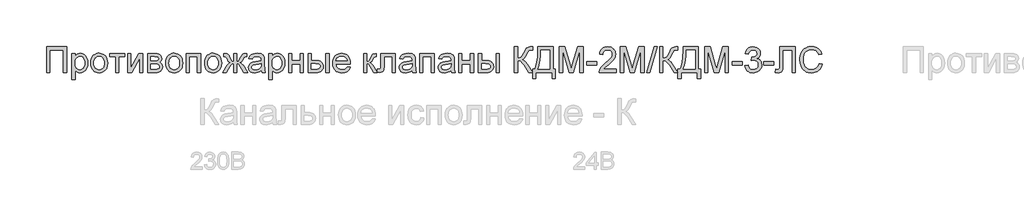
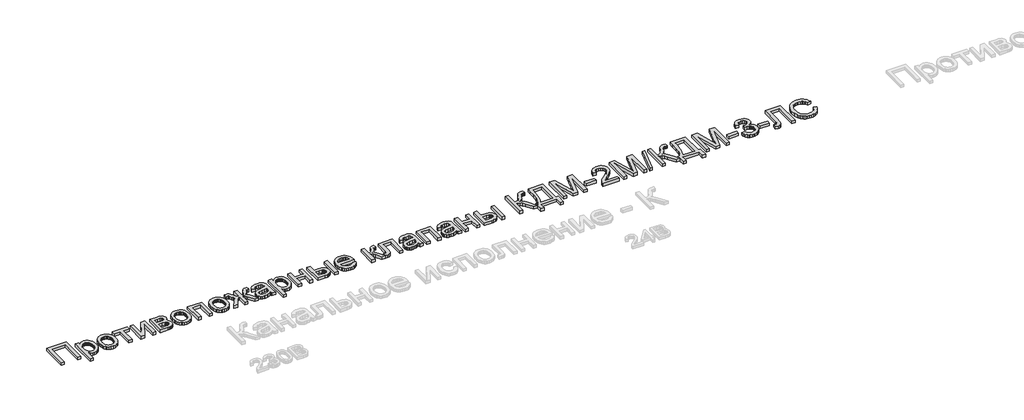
# One storey, part 8 of 23: 1 proxy.
"""IFC4 building model written with IfcOpenShell, lengths in millimetres."""

from ifc_helpers import new_model, si_unit, origin, origin_with_axes, place, context, project, spatial, polyline, outline, extrude, element, save

model = new_model("IFC4")

# Units and contexts
model_context = context("Model", 3, world=origin())
ifc_project = project(units=[si_unit("LENGTHUNIT", "METRE", prefix="MILLI")], contexts=[model_context])

# Site, building, storey
site = spatial("IfcSite", under=ifc_project)
building = spatial("IfcBuilding", under=site)
storey = spatial("IfcBuildingStorey", under=building, Name="Этаж 01", Elevation=0.0)

# Proxy
placement = place(None, origin())
element("IfcBuildingElementProxy", 1, Name="450 мм Arial", ObjectType="450 мм Arial", at=placement, inside=storey, context=model_context, shape_type="SweptSolid", body=[
    extrude(outline(polyline([(947.7209967, -11762.9519857), (1299.0148583, -11762.9519857), (1299.0148583, -12212.6081285), (1242.8078404, -12212.6081285), (1242.8078404, -11819.1590035), (1003.9280146, -11819.1590035), (1003.9280146, -12212.6081285), (947.7209967, -12212.6081285), (947.7209967, -11762.9519857)])), origin_with_axes(), (0.0, 0.0, 1.0), 50.0),
    extrude(outline(polyline([(1390.3512623, -12339.0739187), (1390.3512623, -11882.3918986), (1446.5582802, -11882.3918986), (1446.5582802, -11937.5011231), (1464.8914286, -11910.3170161), (1485.4201636, -11890.8997968), (1509.3520579, -11879.2494652), (1537.8946842, -11875.3660214), (1575.9057778, -11880.8000983), (1609.1414705, -11897.1023291), (1636.2020757, -11923.2846997), (1655.6879071, -11958.3591962), (1667.4617405, -11999.7734491), (1671.3863516, -12044.9750889), (1666.954011, -12093.0447138), (1653.6569895, -12136.0370446), (1631.9206818, -12171.7702171), (1602.1704829, -12198.062367), (1567.5213813, -12214.241096), (1531.0883656, -12219.6340057), (1505.2490554, -12216.0250102), (1482.1816733, -12205.1980236), (1462.435116, -12188.8546256), (1446.5582802, -12168.6963958), (1446.5582802, -12339.0739187), (1390.3512623, -12339.0739187)]), holes=[polyline([(1446.5582802, -12050.1347175), (1448.0780378, -12077.2227676), (1452.6373106, -12100.5234308), (1460.2360988, -12120.036707), (1470.8744021, -12135.7625963), (1483.6808473, -12147.8657676), (1497.7840608, -12156.51089), (1513.1840427, -12161.6979634), (1529.8807929, -12163.4269879), (1546.8176855, -12161.6362125), (1562.4989769, -12156.2638865), (1576.9246672, -12147.3100097), (1590.0947564, -12134.7745823), (1601.069259, -12118.4792127), (1608.9081894, -12098.2455096), (1613.6115476, -12074.073473), (1615.1793337, -12045.9631029), (1613.6492843, -12019.1083339), (1609.059136, -11995.848838), (1601.4088888, -11976.1846152), (1590.6985427, -11960.1156655), (1577.8612221, -11947.6282665), (1563.8300513, -11938.7086958), (1548.6050302, -11933.3569534), (1532.1861589, -11931.5730392), (1515.8187467, -11933.4701633), (1500.4187648, -11939.1615355), (1485.9862133, -11948.6471559), (1472.5210921, -11961.9270245), (1461.1623619, -11978.8227497), (1453.0489831, -11999.1559403), (1448.1809559, -12022.9265963), (1446.5582802, -12050.1347175)])]), origin_with_axes(), (0.0, 0.0, 1.0), 50.0),
    extrude(outline(polyline([(1720.5674922, -12047.5000135), (1723.6070074, -12004.7341026), (1732.7255532, -11967.8825532), (1747.9231294, -11936.9453653), (1769.1997361, -11911.9225388), (1790.6204282, -11895.9290624), (1814.2641518, -11884.5051507), (1840.1309069, -11877.6508037), (1868.2206934, -11875.3660214), (1899.229924, -11878.1482413), (1927.2682514, -11886.4949011), (1952.3356757, -11900.4060008), (1974.4321968, -11919.8815404), (1992.4668827, -11944.2628439), (2005.3488011, -11972.8912352), (2013.0779522, -12005.7667145), (2015.6543359, -12042.8892816), (2011.0984936, -12099.672641), (2005.4036908, -12122.9801653), (1997.4309668, -12142.8982528), (1975.0497056, -12175.2694333), (1944.3526599, -12199.4894983), (1907.8921994, -12214.5978789), (1868.2206934, -12219.6340057), (1836.758623, -12216.8620776), (1808.4595697, -12208.5462932), (1783.3235333, -12194.6866526), (1761.3505139, -12175.2831557), (1743.5079419, -12150.6651405), (1730.7632476, -12121.1619451), (1723.116431, -12086.7735695), (1720.5674922, -12047.5000135)]), holes=[polyline([(1776.77451, -12047.3902342), (1778.4006164, -12074.6532451), (1783.2789354, -12098.2592321), (1791.4094672, -12118.208195), (1802.7922117, -12134.5001339), (1816.6381299, -12147.1556325), (1832.1581829, -12156.1952744), (1849.3523707, -12161.6190595), (1868.2206934, -12163.4269879), (1886.9929591, -12161.6087677), (1904.1185349, -12156.1541071), (1919.5974206, -12147.0630062), (1933.4296164, -12134.335465), (1944.8123609, -12117.8822876), (1952.9428926, -12097.6142785), (1957.8212117, -12073.5314376), (1959.4473181, -12045.6337649), (1957.8109199, -12019.2352662), (1952.9017254, -11996.246788), (1944.7197346, -11976.6683303), (1933.2649474, -11960.4998931), (1919.3812926, -11947.8443946), (1903.9126986, -11938.8047527), (1886.8591655, -11933.3809676), (1868.2206934, -11931.5730392), (1849.3523707, -11933.3741064), (1832.1581829, -11938.7773079), (1816.6381299, -11947.7826437), (1802.7922117, -11960.3901138), (1791.4094672, -11976.6340243), (1783.2789354, -11996.5486812), (1778.4006164, -12020.1340845), (1776.77451, -12047.3902342)])]), origin_with_axes(), (0.0, 0.0, 1.0), 50.0),
    extrude(outline(polyline([(2050.7837221, -11882.3918986), (2317.7670569, -11882.3918986), (2317.7670569, -11938.5989165), (2212.3788984, -11938.5989165), (2212.3788984, -12212.6081285), (2156.1718805, -12212.6081285), (2156.1718805, -11938.5989165), (2050.7837221, -11938.5989165), (2050.7837221, -11882.3918986)])), origin_with_axes(), (0.0, 0.0, 1.0), 50.0),
    extrude(outline(polyline([(2366.9481975, -11882.3918986), (2423.1552153, -11882.3918986), (2423.1552153, -12134.2256856), (2561.2576147, -11882.3918986), (2633.9315323, -11882.3918986), (2633.9315323, -12212.6081285), (2577.7245144, -12212.6081285), (2577.7245144, -11962.3112521), (2440.5003497, -12212.6081285), (2366.9481975, -12212.6081285), (2366.9481975, -11882.3918986)])), origin_with_axes(), (0.0, 0.0, 1.0), 50.0),
    extrude(outline(polyline([(2718.2420591, -11882.3918986), (2842.0731453, -11882.3918986), (2881.8818754, -11884.2718697), (2909.9716619, -11889.9117828), (2930.6376211, -11900.560378), (2948.1748694, -11917.4663951), (2960.154539, -11939.4908735), (2964.1477622, -11965.4948527), (2961.7326169, -11986.4489827), (2954.487181, -12004.5214052), (2942.3840096, -12019.7944547), (2925.3956581, -12032.3504658), (2946.1988414, -12044.0282422), (2963.1597482, -12062.8142303), (2974.4395745, -12087.2264092), (2978.1995166, -12115.7827579), (2975.0776669, -12138.7883891), (2968.6761596, -12158.6241421), (2958.9949948, -12175.2900169), (2946.0341724, -12188.7860135), (2929.7731089, -12199.2081888), (2910.1912206, -12206.6525997), (2887.2885075, -12211.1192463), (2861.0649697, -12212.6081285), (2718.2420591, -12212.6081285), (2718.2420591, -11882.3918986)]), holes=[polyline([(2774.4490769, -12156.4011106), (2843.3904972, -12156.4011106), (2880.9624735, -12153.8624636), (2904.537585, -12146.2465224), (2917.189653, -12132.4006042), (2921.9924988, -12111.172026), (2919.5910759, -12097.1065491), (2912.3868072, -12084.1114207), (2901.3265396, -12073.9431101), (2887.3571196, -12068.3580866), (2837.9015307, -12065.0647066), (2774.4490769, -12065.0647066), (2774.4490769, -12156.4011106)]), polyline([(2774.4490769, -12008.8576888), (2829.9974188, -12008.8576888), (2875.8302898, -12006.0034261), (2898.1154941, -11994.5863756), (2905.4844318, -11985.1453531), (2907.9407443, -11973.9478613), (2903.6319055, -11957.1790684), (2890.7053892, -11946.393249), (2867.3498364, -11940.5474996), (2831.7538881, -11938.5989165), (2774.4490769, -11938.5989165), (2774.4490769, -12008.8576888)])]), origin_with_axes(), (0.0, 0.0, 1.0), 50.0),
    extrude(outline(polyline([(3034.4065345, -12047.5000135), (3037.4460497, -12004.7341026), (3046.5645955, -11967.8825532), (3061.7621717, -11936.9453653), (3083.0387784, -11911.9225388), (3104.4594705, -11895.9290624), (3128.1031941, -11884.5051507), (3153.9699492, -11877.6508037), (3182.0597357, -11875.3660214), (3213.0689663, -11878.1482413), (3241.1072937, -11886.4949011), (3266.174718, -11900.4060008), (3288.2712391, -11919.8815404), (3306.305925, -11944.2628439), (3319.1878434, -11972.8912352), (3326.9169945, -12005.7667145), (3329.4933782, -12042.8892816), (3324.9375359, -12099.672641), (3319.2427331, -12122.9801653), (3311.2700091, -12142.8982528), (3288.8887479, -12175.2694333), (3258.1917022, -12199.4894983), (3221.7312417, -12214.5978789), (3182.0597357, -12219.6340057), (3150.5976653, -12216.8620776), (3122.298612, -12208.5462932), (3097.1625756, -12194.6866526), (3075.1895562, -12175.2831557), (3057.3469842, -12150.6651405), (3044.6022899, -12121.1619451), (3036.9554733, -12086.7735695), (3034.4065345, -12047.5000135)]), holes=[polyline([(3090.6135523, -12047.3902342), (3092.2396587, -12074.6532451), (3097.1179777, -12098.2592321), (3105.2485095, -12118.208195), (3116.631254, -12134.5001339), (3130.4771722, -12147.1556325), (3145.9972252, -12156.1952744), (3163.191413, -12161.6190595), (3182.0597357, -12163.4269879), (3200.8320014, -12161.6087677), (3217.9575771, -12156.1541071), (3233.4364629, -12147.0630062), (3247.2686587, -12134.335465), (3258.6514032, -12117.8822876), (3266.7819349, -12097.6142785), (3271.660254, -12073.5314376), (3273.2863603, -12045.6337649), (3271.6499622, -12019.2352662), (3266.7407677, -11996.246788), (3258.5587769, -11976.6683303), (3247.1039897, -11960.4998931), (3233.2203349, -11947.8443946), (3217.7517409, -11938.8047527), (3200.6982078, -11933.3809676), (3182.0597357, -11931.5730392), (3163.191413, -11933.3741064), (3145.9972252, -11938.7773079), (3130.4771722, -11947.7826437), (3116.631254, -11960.3901138), (3105.2485095, -11976.6340243), (3097.1179777, -11996.5486812), (3092.2396587, -12020.1340845), (3090.6135523, -12047.3902342)])]), origin_with_axes(), (0.0, 0.0, 1.0), 50.0),
    extrude(outline(polyline([(3392.7262733, -11882.3918986), (3645.6578536, -11882.3918986), (3645.6578536, -12212.6081285), (3589.4508358, -12212.6081285), (3589.4508358, -11938.5989165), (3448.9332911, -11938.5989165), (3448.9332911, -12212.6081285), (3392.7262733, -12212.6081285), (3392.7262733, -11882.3918986)])), origin_with_axes(), (0.0, 0.0, 1.0), 50.0),
    extrude(outline(polyline([(3715.9166259, -12047.5000135), (3718.9561412, -12004.7341026), (3728.0746869, -11967.8825532), (3743.2722632, -11936.9453653), (3764.5488699, -11911.9225388), (3785.969562, -11895.9290624), (3809.6132856, -11884.5051507), (3835.4800406, -11877.6508037), (3863.5698271, -11875.3660214), (3894.5790577, -11878.1482413), (3922.6173852, -11886.4949011), (3947.6848095, -11900.4060008), (3969.7813306, -11919.8815404), (3987.8160164, -11944.2628439), (4000.6979349, -11972.8912352), (4008.427086, -12005.7667145), (4011.0034697, -12042.8892816), (4006.4476274, -12099.672641), (4000.7528246, -12122.9801653), (3992.7801006, -12142.8982528), (3970.3988393, -12175.2694333), (3939.7017937, -12199.4894983), (3903.2413331, -12214.5978789), (3863.5698271, -12219.6340057), (3832.1077568, -12216.8620776), (3803.8087034, -12208.5462932), (3778.672667, -12194.6866526), (3756.6996477, -12175.2831557), (3738.8570757, -12150.6651405), (3726.1123814, -12121.1619451), (3718.4655648, -12086.7735695), (3715.9166259, -12047.5000135)]), holes=[polyline([(3772.1236438, -12047.3902342), (3773.7497501, -12074.6532451), (3778.6280692, -12098.2592321), (3786.7586009, -12118.208195), (3798.1413454, -12134.5001339), (3811.9872636, -12147.1556325), (3827.5073166, -12156.1952744), (3844.7015045, -12161.6190595), (3863.5698271, -12163.4269879), (3882.3420929, -12161.6087677), (3899.4676686, -12156.1541071), (3914.9465544, -12147.0630062), (3928.7787502, -12134.335465), (3940.1614946, -12117.8822876), (3948.2920264, -12097.6142785), (3953.1703455, -12073.5314376), (3954.7964518, -12045.6337649), (3953.1600536, -12019.2352662), (3948.2508591, -11996.246788), (3940.0688683, -11976.6683303), (3928.6140812, -11960.4998931), (3914.7304263, -11947.8443946), (3899.2618324, -11938.8047527), (3882.2082993, -11933.3809676), (3863.5698271, -11931.5730392), (3844.7015045, -11933.3741064), (3827.5073166, -11938.7773079), (3811.9872636, -11947.7826437), (3798.1413454, -11960.3901138), (3786.7586009, -11976.6340243), (3778.6280692, -11996.5486812), (3773.7497501, -12020.1340845), (3772.1236438, -12047.3902342)])]), origin_with_axes(), (0.0, 0.0, 1.0), 50.0),
    extrude(outline(polyline([(4277.9868045, -11882.3918986), (4277.9868045, -12022.9094432), (4297.8156963, -12020.0140134), (4310.755935, -12011.3277237), (4341.7685962, -11951.2235396), (4361.1172034, -11913.7613426), (4378.764231, -11893.5893904), (4400.1986455, -11885.1912716), (4431.3485309, -11882.3918986), (4453.6337352, -11882.3918986), (4453.6337352, -11938.9282545), (4438.1548495, -11938.5989165), (4419.6021424, -11940.0534926), (4409.1731059, -11944.417221), (4389.0834882, -11980.8639592), (4376.9391496, -12005.2898605), (4365.7553802, -12020.8236359), (4352.074131, -12031.4447863), (4332.437353, -12041.1328123), (4350.9283092, -12049.0437854), (4369.1859843, -12063.0063442), (4387.2103783, -12083.0204886), (4405.0014913, -12109.0862187), (4467.6854897, -12212.6081285), (4403.245022, -12212.6081285), (4341.5490375, -12110.51335), (4324.6841877, -12083.7134706), (4310.097259, -12068.0836382), (4295.3456613, -12060.5500316), (4277.9868045, -12058.0388294), (4277.9868045, -12212.6081285), (4221.7797866, -12212.6081285), (4221.7797866, -12058.0388294), (4204.5581539, -12060.4951419), (4189.7791114, -12067.8640796), (4175.0824034, -12083.3841326), (4158.1077742, -12110.2937913), (4096.4117898, -12212.6081285), (4032.0811014, -12212.6081285), (4094.5455411, -12109.0862187), (4112.4876006, -12083.0204886), (4130.6354964, -12063.0063442), (4148.9892284, -12049.0437854), (4167.5487967, -12041.1328123), (4146.0869374, -12030.3744378), (4132.1998519, -12018.7378286), (4119.5752287, -11998.2914281), (4101.9007563, -11961.1036795), (4094.7376549, -11948.7260598), (4087.0805466, -11942.1118551), (4062.8193142, -11938.2695785), (4046.1328558, -11938.5989165), (4046.1328558, -11882.3918986), (4054.5858644, -11882.3918986), (4103.8767843, -11885.9048372), (4117.4070869, -11891.3938038), (4129.4553686, -11900.8348263), (4142.2721056, -11919.1405299), (4158.1077742, -11951.2235396), (4188.7910974, -12010.9434961), (4201.7313361, -12019.9179564), (4221.7797866, -12022.9094432), (4221.7797866, -11882.3918986), (4277.9868045, -11882.3918986)])), origin_with_axes(), (0.0, 0.0, 1.0), 50.0),
    extrude(outline(polyline([(4706.5653156, -12170.4528651), (4679.7105465, -12193.4790799), (4652.0598774, -12208.5462932), (4622.9820769, -12216.8620776), (4591.8459139, -12219.6340057), (4566.8196569, -12217.9667321), (4544.8740823, -12212.9649113), (4526.0091903, -12204.6285433), (4510.2249808, -12192.9576281), (4497.761596, -12178.6931762), (4488.8591783, -12162.576198), (4483.5177277, -12144.6066937), (4481.7372442, -12124.7846631), (4484.4268378, -12101.4839999), (4492.4956187, -12080.3240337), (4504.9418504, -12062.210444), (4520.7637966, -12048.0489102), (4539.3576709, -12037.3454254), (4560.119687, -12029.6059825), (4608.751931, -12021.1529739), (4666.2214112, -12012.2608481), (4706.2359776, -12001.8318115), (4706.5653156, -11989.3169677), (4702.6955941, -11964.2323904), (4691.0864298, -11947.8203803), (4665.1236178, -11935.6348745), (4628.951328, -11931.5730392), (4595.4686319, -11934.2763553), (4572.0856342, -11942.3863034), (4556.1401863, -11957.3849046), (4544.9701393, -11980.7541798), (4488.7631214, -11973.7283026), (4498.5197595, -11942.9900897), (4513.0792434, -11918.8386367), (4533.8000922, -11900.3682642), (4562.0408253, -11886.6732925), (4596.5801476, -11878.1928392), (4636.1967639, -11875.3660214), (4674.1941351, -11877.8635012), (4704.3148393, -11885.3559406), (4727.0254385, -11896.6220445), (4742.7924951, -11910.4405179), (4753.2489764, -11927.5249264), (4760.0278501, -11948.5888356), (4762.7723334, -11997.7699763), (4762.7723334, -12067.6994106), (4765.6265961, -12165.3481262), (4776.8240879, -12212.6081285), (4720.61707, -12212.6081285), (4711.6151648, -12193.0674074), (4706.5653156, -12170.4528651)]), holes=[polyline([(4706.5653156, -12058.0388294), (4668.8012255, -12067.3975174), (4615.8875876, -12075.2741845), (4567.5297919, -12084.385869), (4554.946336, -12090.6158461), (4545.6288152, -12099.2060788), (4539.8654003, -12109.4978911), (4537.944262, -12120.8326071), (4542.129599, -12137.5465104), (4554.6856101, -12151.241482), (4575.3378469, -12160.3806114), (4603.8118611, -12163.4269879), (4634.0011773, -12160.0649958), (4660.6775549, -12149.9790197), (4682.3040833, -12135.1176427), (4697.3438517, -12117.4294479), (4704.0129461, -12099.2060788), (4706.2359776, -12073.9568325), (4706.5653156, -12058.0388294)])]), origin_with_axes(), (0.0, 0.0, 1.0), 50.0),
    extrude(outline(polyline([(4840.056983, -12339.0739187), (4840.056983, -11882.3918986), (4896.2640008, -11882.3918986), (4896.2640008, -11937.5011231), (4914.5971492, -11910.3170161), (4935.1258843, -11890.8997968), (4959.0577786, -11879.2494652), (4987.6004048, -11875.3660214), (5025.6114985, -11880.8000983), (5058.8471911, -11897.1023291), (5085.9077964, -11923.2846997), (5105.3936278, -11958.3591962), (5117.1674611, -11999.7734491), (5121.0920722, -12044.9750889), (5116.6597317, -12093.0447138), (5103.3627102, -12136.0370446), (5081.6264025, -12171.7702171), (5051.8762036, -12198.062367), (5017.227102, -12214.241096), (4980.7940863, -12219.6340057), (4954.9547761, -12216.0250102), (4931.887394, -12205.1980236), (4912.1408367, -12188.8546256), (4896.2640008, -12168.6963958), (4896.2640008, -12339.0739187), (4840.056983, -12339.0739187)]), holes=[polyline([(4896.2640008, -12050.1347175), (4897.7837585, -12077.2227676), (4902.3430313, -12100.5234308), (4909.9418194, -12120.036707), (4920.5801228, -12135.7625963), (4933.386568, -12147.8657676), (4947.4897815, -12156.51089), (4962.8897634, -12161.6979634), (4979.5865136, -12163.4269879), (4996.5234061, -12161.6362125), (5012.2046976, -12156.2638865), (5026.6303879, -12147.3100097), (5039.8004771, -12134.7745823), (5050.7749797, -12118.4792127), (5058.6139101, -12098.2455096), (5063.3172683, -12074.073473), (5064.8850544, -12045.9631029), (5063.3550049, -12019.1083339), (5058.7648566, -11995.848838), (5051.1146095, -11976.1846152), (5040.4042634, -11960.1156655), (5027.5669428, -11947.6282665), (5013.535772, -11938.7086958), (4998.3107509, -11933.3569534), (4981.8918796, -11931.5730392), (4965.5244673, -11933.4701633), (4950.1244855, -11939.1615355), (4935.6919339, -11948.6471559), (4922.2268128, -11961.9270245), (4910.8680826, -11978.8227497), (4902.7547038, -11999.1559403), (4897.8866766, -12022.9265963), (4896.2640008, -12050.1347175)])]), origin_with_axes(), (0.0, 0.0, 1.0), 50.0),
    extrude(outline(polyline([(5184.3249673, -11882.3918986), (5240.5319852, -11882.3918986), (5240.5319852, -12008.8576888), (5388.075407, -12008.8576888), (5388.075407, -11882.3918986), (5444.2824249, -11882.3918986), (5444.2824249, -12212.6081285), (5388.075407, -12212.6081285), (5388.075407, -12065.0647066), (5240.5319852, -12065.0647066), (5240.5319852, -12212.6081285), (5184.3249673, -12212.6081285), (5184.3249673, -11882.3918986)])), origin_with_axes(), (0.0, 0.0, 1.0), 50.0),
    extrude(outline(polyline([(5528.5929517, -11882.3918986), (5584.7999695, -11882.3918986), (5584.7999695, -12001.8318115), (5654.2902865, -12001.8318115), (5686.2669475, -12003.5917115), (5714.3533034, -12008.8714112), (5738.5493542, -12017.6709107), (5758.8551, -12029.9902101), (5774.9206191, -12045.4039144), (5786.3959898, -12063.4866287), (5793.2812123, -12084.238353), (5795.5762865, -12107.6590873), (5793.6517176, -12128.554897), (5787.8780108, -12147.87949), (5778.2551663, -12165.6328663), (5764.7831839, -12181.8150259), (5747.0846973, -12195.2870083), (5724.7823399, -12204.9098528), (5697.8761118, -12210.6835596), (5666.366013, -12212.6081285), (5528.5929517, -12212.6081285), (5528.5929517, -11882.3918986)]), holes=[polyline([(5584.7999695, -12156.4011106), (5642.543898, -12156.4011106), (5687.3064205, -12153.4507911), (5717.0840643, -12144.5998325), (5733.7979675, -12129.4914519), (5739.3692686, -12107.7688667), (5735.2388213, -12089.4082734), (5722.8474792, -12073.1883772), (5712.0925353, -12066.56045), (5696.349493, -12061.8262163), (5649.8991132, -12058.0388294), (5584.7999695, -12058.0388294), (5584.7999695, -12156.4011106)])]), origin_with_axes(), (0.0, 0.0, 1.0), 50.0),
    extrude(outline(polyline([(5837.7315499, -11882.3918986), (5893.9385677, -11882.3918986), (5893.9385677, -12212.6081285), (5837.7315499, -12212.6081285), (5837.7315499, -11882.3918986)])), origin_with_axes(), (0.0, 0.0, 1.0), 50.0),
    extrude(outline(polyline([(6209.4443671, -12114.2458472), (6264.5535917, -12121.2717245), (6256.1040137, -12143.3442314), (6244.697255, -12162.7957567), (6230.3333156, -12179.6263005), (6213.0121954, -12193.8358628), (6192.9122859, -12205.1225503), (6170.2119785, -12213.18447), (6144.9112731, -12218.0216218), (6117.0101698, -12219.6340057), (6082.1346484, -12216.8517858), (6051.0602363, -12208.505126), (6023.7869335, -12194.5940263), (6000.3147402, -12175.1184867), (5981.4395563, -12150.6205427), (5967.9572821, -12121.6422297), (5959.8679176, -12088.1835478), (5957.1714628, -12050.2444968), (5959.8953625, -12011.0189694), (5968.0670615, -11976.4453411), (5981.6865598, -11946.523612), (6000.7538575, -11921.253782), (6024.1643, -11901.1778867), (6050.8132328, -11886.8379615), (6080.7006558, -11878.2340064), (6113.8265692, -11875.3660214), (6145.8855647, -11878.2271452), (6174.8776001, -11886.8105167), (6200.8026754, -11901.1161359), (6223.6607906, -11921.1440027), (6242.3198464, -11946.358943), (6255.6477434, -11976.2257824), (6263.6444816, -12010.744521), (6266.310061, -12049.9151588), (6265.980723, -12065.0647066), (6013.3784806, -12065.0647066), (6016.6341239, -12087.4939963), (6023.1076739, -12107.1376355), (6032.7991305, -12123.9956241), (6045.7084938, -12138.0679622), (6061.1221981, -12149.1625359), (6078.3266778, -12157.0872315), (6097.3219328, -12161.8420488), (6118.1079631, -12163.4269879), (6148.022831, -12160.4903907), (6173.2171877, -12151.6805994), (6193.691033, -12136.4487171), (6209.4443671, -12114.2458472)]), holes=[polyline([(6013.3784806, -12008.8576888), (6210.1030431, -12008.8576888), (6202.5008244, -11979.1623795), (6187.5982801, -11957.9200788), (6172.2703409, -11946.393249), (6154.8291496, -11938.1597991), (6135.2747061, -11933.2197292), (6113.6070105, -11931.5730392), (6075.7194187, -11936.8287247), (6044.3911419, -11952.5957813), (6031.9346183, -11963.9956787), (6022.6136669, -11977.1726291), (6016.4282877, -11992.1266325), (6013.3784806, -12008.8576888)])]), origin_with_axes(), (0.0, 0.0, 1.0), 50.0),
    extrude(outline(polyline([(6800.2767306, -11882.3918986), (7053.2083109, -11882.3918986), (7053.2083109, -12212.2787905), (6997.0012931, -12212.2787905), (6997.0012931, -11938.5989165), (6856.4837484, -11938.5989165), (6856.4837484, -12096.1322575), (6852.6963615, -12168.8061751), (6845.6018722, -12185.2593525), (6831.8931781, -12199.4894983), (6811.0899947, -12209.3284709), (6782.7120375, -12212.6081285), (6737.0438355, -12209.7538659), (6737.0438355, -12156.4011106), (6762.1833025, -12156.4011106), (6787.5972178, -12152.9430617), (6793.9506966, -12148.4695539), (6797.7518059, -12141.9651285), (6800.2767306, -12092.9486569), (6800.2767306, -11882.3918986)])), origin_with_axes(), (0.0, 0.0, 1.0), 50.0),
    extrude(outline(polyline([(6498.1640096, -11882.3918986), (6554.3710275, -11882.3918986), (6554.3710275, -12022.9094432), (6577.2325733, -12020.3845186), (6592.0253383, -12012.8097447), (6605.1165236, -11993.049465), (6622.8733305, -11953.9680229), (6637.1858109, -11922.0085149), (6648.5068044, -11903.195082), (6659.0730651, -11892.9444369), (6671.1213468, -11886.6732925), (6712.2337065, -11882.3918986), (6722.992081, -11882.3918986), (6722.992081, -11938.9282545), (6707.8425332, -11938.5989165), (6690.2778402, -11940.0809374), (6680.3977003, -11944.5270004), (6661.0765379, -11981.5226352), (6649.2066477, -12006.1818176), (6638.4071059, -12021.5372016), (6625.329643, -12031.7878467), (6606.6259894, -12041.1328123), (6624.437686, -12049.0437854), (6642.0847135, -12063.0063442), (6659.5670721, -12083.0204886), (6676.8847617, -12109.0862187), (6737.0438355, -12212.6081285), (6673.1522644, -12212.6081285), (6614.2007633, -12111.2818053), (6598.2827602, -12084.3172569), (6584.5603437, -12068.4129762), (6570.7007031, -12060.6323661), (6554.3710275, -12058.0388294), (6554.3710275, -12212.6081285), (6498.1640096, -12212.6081285), (6498.1640096, -11882.3918986)])), origin_with_axes(), (0.0, 0.0, 1.0), 50.0),
    extrude(outline(polyline([(7348.2951546, -12170.4528651), (7321.4403856, -12193.4790799), (7293.7897164, -12208.5462932), (7264.7119159, -12216.8620776), (7233.575753, -12219.6340057), (7208.5494959, -12217.9667321), (7186.6039214, -12212.9649113), (7167.7390294, -12204.6285433), (7151.9548198, -12192.9576281), (7139.4914351, -12178.6931762), (7130.5890174, -12162.576198), (7125.2475668, -12144.6066937), (7123.4670832, -12124.7846631), (7126.1566768, -12101.4839999), (7134.2254577, -12080.3240337), (7146.6716895, -12062.210444), (7162.4936357, -12048.0489102), (7181.08751, -12037.3454254), (7201.8495261, -12029.6059825), (7250.48177, -12021.1529739), (7307.9512502, -12012.2608481), (7347.9658166, -12001.8318115), (7348.2951546, -11989.3169677), (7344.4254332, -11964.2323904), (7332.8162689, -11947.8203803), (7306.8534569, -11935.6348745), (7270.6811671, -11931.5730392), (7237.1984709, -11934.2763553), (7213.8154732, -11942.3863034), (7197.8700253, -11957.3849046), (7186.6999783, -11980.7541798), (7130.4929605, -11973.7283026), (7140.2495986, -11942.9900897), (7154.8090824, -11918.8386367), (7175.5299313, -11900.3682642), (7203.7706644, -11886.6732925), (7238.3099866, -11878.1928392), (7277.926603, -11875.3660214), (7315.9239742, -11877.8635012), (7346.0446783, -11885.3559406), (7368.7552776, -11896.6220445), (7384.5223341, -11910.4405179), (7394.9788155, -11927.5249264), (7401.7576892, -11948.5888356), (7404.5021725, -11997.7699763), (7404.5021725, -12067.6994106), (7407.3564351, -12165.3481262), (7418.5539269, -12212.6081285), (7362.3469091, -12212.6081285), (7353.3450039, -12193.0674074), (7348.2951546, -12170.4528651)]), holes=[polyline([(7348.2951546, -12058.0388294), (7310.5310645, -12067.3975174), (7257.6174266, -12075.2741845), (7209.259631, -12084.385869), (7196.6761751, -12090.6158461), (7187.3586543, -12099.2060788), (7181.5952394, -12109.4978911), (7179.6741011, -12120.8326071), (7183.8594381, -12137.5465104), (7196.4154492, -12151.241482), (7217.0676859, -12160.3806114), (7245.5417001, -12163.4269879), (7275.7310163, -12160.0649958), (7302.407394, -12149.9790197), (7324.0339223, -12135.1176427), (7339.0736908, -12117.4294479), (7345.7427852, -12099.2060788), (7347.9658166, -12073.9568325), (7348.2951546, -12058.0388294)])]), origin_with_axes(), (0.0, 0.0, 1.0), 50.0),
    extrude(outline(polyline([(7481.786822, -11882.3918986), (7734.7184024, -11882.3918986), (7734.7184024, -12212.6081285), (7678.5113845, -12212.6081285), (7678.5113845, -11938.5989165), (7537.9938399, -11938.5989165), (7537.9938399, -12212.6081285), (7481.786822, -12212.6081285), (7481.786822, -11882.3918986)])), origin_with_axes(), (0.0, 0.0, 1.0), 50.0),
    extrude(outline(polyline([(8029.8052461, -12170.4528651), (8002.9504771, -12193.4790799), (7975.2998079, -12208.5462932), (7946.2220074, -12216.8620776), (7915.0858444, -12219.6340057), (7890.0595874, -12217.9667321), (7868.1140128, -12212.9649113), (7849.2491208, -12204.6285433), (7833.4649113, -12192.9576281), (7821.0015265, -12178.6931762), (7812.0991088, -12162.576198), (7806.7576582, -12144.6066937), (7804.9771747, -12124.7846631), (7807.6667683, -12101.4839999), (7815.7355492, -12080.3240337), (7828.1817809, -12062.210444), (7844.0037271, -12048.0489102), (7862.5976014, -12037.3454254), (7883.3596175, -12029.6059825), (7931.9918615, -12021.1529739), (7989.4613417, -12012.2608481), (8029.4759081, -12001.8318115), (8029.8052461, -11989.3169677), (8025.9355246, -11964.2323904), (8014.3263603, -11947.8203803), (7988.3635484, -11935.6348745), (7952.1912585, -11931.5730392), (7918.7085624, -11934.2763553), (7895.3255647, -11942.3863034), (7879.3801168, -11957.3849046), (7868.2100698, -11980.7541798), (7812.0030519, -11973.7283026), (7821.75969, -11942.9900897), (7836.3191739, -11918.8386367), (7857.0400228, -11900.3682642), (7885.2807558, -11886.6732925), (7919.8200781, -11878.1928392), (7959.4366944, -11875.3660214), (7997.4340656, -11877.8635012), (8027.5547698, -11885.3559406), (8050.265369, -11896.6220445), (8066.0324256, -11910.4405179), (8076.4889069, -11927.5249264), (8083.2677806, -11948.5888356), (8086.0122639, -11997.7699763), (8086.0122639, -12067.6994106), (8088.8665266, -12165.3481262), (8100.0640184, -12212.6081285), (8043.8570006, -12212.6081285), (8034.8550953, -12193.0674074), (8029.8052461, -12170.4528651)]), holes=[polyline([(8029.8052461, -12058.0388294), (7992.041156, -12067.3975174), (7939.1275181, -12075.2741845), (7890.7697224, -12084.385869), (7878.1862665, -12090.6158461), (7868.8687458, -12099.2060788), (7863.1053308, -12109.4978911), (7861.1841925, -12120.8326071), (7865.3695296, -12137.5465104), (7877.9255406, -12151.241482), (7898.5777774, -12160.3806114), (7927.0517916, -12163.4269879), (7957.2411078, -12160.0649958), (7983.9174854, -12149.9790197), (8005.5440138, -12135.1176427), (8020.5837822, -12117.4294479), (8027.2528766, -12099.2060788), (8029.4759081, -12073.9568325), (8029.8052461, -12058.0388294)])]), origin_with_axes(), (0.0, 0.0, 1.0), 50.0),
    extrude(outline(polyline([(8163.2969135, -11882.3918986), (8219.5039313, -11882.3918986), (8219.5039313, -12008.8576888), (8367.0473532, -12008.8576888), (8367.0473532, -11882.3918986), (8423.2543711, -11882.3918986), (8423.2543711, -12212.6081285), (8367.0473532, -12212.6081285), (8367.0473532, -12065.0647066), (8219.5039313, -12065.0647066), (8219.5039313, -12212.6081285), (8163.2969135, -12212.6081285), (8163.2969135, -11882.3918986)])), origin_with_axes(), (0.0, 0.0, 1.0), 50.0),
    extrude(outline(polyline([(8507.5648978, -11882.3918986), (8563.7719157, -11882.3918986), (8563.7719157, -12001.8318115), (8633.2622327, -12001.8318115), (8665.2388936, -12003.5917115), (8693.3252496, -12008.8714112), (8717.5213004, -12017.6709107), (8737.8270462, -12029.9902101), (8753.8925652, -12045.4039144), (8765.367936, -12063.4866287), (8772.2531585, -12084.238353), (8774.5482326, -12107.6590873), (8772.6236637, -12128.554897), (8766.849957, -12147.87949), (8757.2271124, -12165.6328663), (8743.7551301, -12181.8150259), (8726.0566434, -12195.2870083), (8703.7542861, -12204.9098528), (8676.848058, -12210.6835596), (8645.3379592, -12212.6081285), (8507.5648978, -12212.6081285), (8507.5648978, -11882.3918986)]), holes=[polyline([(8563.7719157, -12156.4011106), (8621.5158442, -12156.4011106), (8666.2783667, -12153.4507911), (8696.0560104, -12144.5998325), (8712.7699137, -12129.4914519), (8718.3412148, -12107.7688667), (8714.2107674, -12089.4082734), (8701.8194253, -12073.1883772), (8691.0644814, -12066.56045), (8675.3214391, -12061.8262163), (8628.8710594, -12058.0388294), (8563.7719157, -12058.0388294), (8563.7719157, -12156.4011106)])]), origin_with_axes(), (0.0, 0.0, 1.0), 50.0),
    extrude(outline(polyline([(8816.703496, -11882.3918986), (8872.9105139, -11882.3918986), (8872.9105139, -12212.6081285), (8816.703496, -12212.6081285), (8816.703496, -11882.3918986)])), origin_with_axes(), (0.0, 0.0, 1.0), 50.0),
    extrude(outline(polyline([(9547.3947281, -11762.9519857), (9814.3780629, -11762.9519857), (9814.3780629, -12156.4011106), (9856.5333263, -12156.4011106), (9856.5333263, -12317.996287), (9800.3263084, -12317.996287), (9800.3263084, -12212.6081285), (9512.2653419, -12212.6081285), (9512.2653419, -12317.996287), (9456.0583241, -12317.996287), (9456.0583241, -12212.6081285), (9456.0583241, -12156.4011106), (9491.1877102, -12156.4011106), (9504.3612301, -12133.5001128), (9515.7782806, -12105.4154722), (9533.3429736, -12033.6952626), (9543.8817895, -11941.2404816), (9547.3947281, -11828.0511294), (9547.3947281, -11762.9519857)]), holes=[polyline([(9758.171045, -11819.1590035), (9603.6017459, -11819.1590035), (9603.6017459, -11841.7735459), (9600.7474833, -11908.4370451), (9592.1846954, -11995.7939483), (9585.1039285, -12042.4707479), (9575.2786784, -12084.7975415), (9562.7089449, -12122.7743291), (9547.3947281, -12156.4011106), (9758.171045, -12156.4011106), (9758.171045, -11819.1590035)])]), origin_with_axes(), (0.0, 0.0, 1.0), 50.0),
    extrude(outline(polyline([(9139.8938487, -11762.9519857), (9196.1008665, -11762.9519857), (9196.1008665, -11959.6765481), (9234.1531274, -11955.9577733), (9258.9495339, -11944.8014487), (9278.9979844, -11918.550466), (9302.806377, -11869.5477168), (9333.8190382, -11806.6990494), (9348.7764721, -11789.6695305), (9368.9484243, -11775.5766088), (9392.8940411, -11766.1081415), (9419.1724686, -11762.9519857), (9456.0583241, -11763.6106617), (9456.0583241, -11819.8176795), (9443.6532596, -11819.4883415), (9431.2481951, -11819.1590035), (9405.5049418, -11822.534718), (9387.3364624, -11832.6618613), (9371.6929076, -11853.9316068), (9353.9635456, -11890.5155692), (9332.2135155, -11936.0739918), (9314.1685378, -11960.9939001), (9296.3705637, -11974.1125303), (9275.361544, -11984.2671185), (9297.1321578, -11993.5297496), (9318.7518249, -12009.6810338), (9340.2205455, -12032.720971), (9361.5383195, -12062.6495613), (9456.0583241, -12212.6081285), (9390.849401, -12212.6081285), (9310.9300475, -12085.9227797), (9280.0683329, -12045.2907045), (9254.66814, -12019.7807323), (9228.6916056, -12006.3190417), (9196.1008665, -12001.8318115), (9196.1008665, -12212.6081285), (9139.8938487, -12212.6081285), (9139.8938487, -11762.9519857)])), origin_with_axes(), (0.0, 0.0, 1.0), 50.0),
    extrude(outline(polyline([(9926.7920986, -12212.6081285), (9926.7920986, -11762.9519857), (10023.5076899, -11762.9519857), (10115.5027699, -12079.8849164), (10134.0554769, -12146.0818534), (10154.1450946, -12074.3959498), (10244.603264, -11762.9519857), (10341.3188553, -11762.9519857), (10341.3188553, -12212.6081285), (10285.1118374, -12212.6081285), (10285.1118374, -11819.1590035), (10172.148905, -12212.6081285), (10095.9620488, -12212.6081285), (9982.9991165, -11819.1590035), (9982.9991165, -12212.6081285), (9926.7920986, -12212.6081285)])), origin_with_axes(), (0.0, 0.0, 1.0), 50.0),
    extrude(outline(polyline([(10404.5517503, -12079.1164611), (10404.5517503, -12022.9094432), (10580.1986811, -12022.9094432), (10580.1986811, -12079.1164611), (10404.5517503, -12079.1164611)])), origin_with_axes(), (0.0, 0.0, 1.0), 50.0),
    extrude(outline(polyline([(10917.4407882, -12156.4011106), (10917.4407882, -12212.6081285), (10622.3539445, -12212.6081285), (10623.588962, -12192.8204039), (10628.3918078, -12173.8560244), (10642.2514484, -12143.5706512), (10662.5331799, -12114.1909576), (10691.8717063, -12083.4390223), (10732.9017316, -12049.0369242), (10793.5548124, -11995.1627171), (10829.9466608, -11955.3951542), (10848.1425851, -11923.1200307), (10854.2078932, -11891.7231418), (10848.4856455, -11863.5784656), (10831.3189025, -11840.1817455), (10804.9306956, -11824.414689), (10771.5440564, -11819.1590035), (10736.4832823, -11824.2911873), (10721.8860618, -11830.706417), (10709.2442856, -11839.6877386), (10699.0176547, -11850.9332589), (10691.6658701, -11864.1410847), (10687.1889317, -11879.3112161), (10685.5868396, -11896.4436531), (10629.3798218, -11889.4177758), (10634.213543, -11860.4017262), (10643.0061813, -11835.0495618), (10655.7577368, -11813.3612826), (10672.4682095, -11795.3368885), (10692.7533716, -11781.1684935), (10716.2289956, -11771.0482114), (10742.8950814, -11764.9760421), (10772.751629, -11762.9519857), (10802.8757638, -11765.202462), (10829.6859349, -11771.9538909), (10853.1821425, -11783.2062724), (10873.3643865, -11798.9596065), (10889.573991, -11818.0474878), (10901.1522799, -11839.3035109), (10908.0992532, -11862.7276758), (10910.414911, -11888.3199825), (10907.9174312, -11915.2021964), (10900.4249918, -11941.6178481), (10887.1279703, -11968.4863395), (10867.216744, -11996.7270726), (10835.4767947, -12030.4430499), (10786.6936041, -12073.7372738), (10722.0335777, -12127.8035947), (10696.6745521, -12156.4011106), (10917.4407882, -12156.4011106)])), origin_with_axes(), (0.0, 0.0, 1.0), 50.0),
    extrude(outline(polyline([(10994.7254378, -12212.6081285), (10994.7254378, -11762.9519857), (11091.4410291, -11762.9519857), (11183.4361091, -12079.8849164), (11201.9888161, -12146.0818534), (11222.0784338, -12074.3959498), (11312.5366032, -11762.9519857), (11409.2521944, -11762.9519857), (11409.2521944, -12212.6081285), (11353.0451766, -12212.6081285), (11353.0451766, -11819.1590035), (11240.0822442, -12212.6081285), (11163.895388, -12212.6081285), (11050.9324556, -11819.1590035), (11050.9324556, -12212.6081285), (10994.7254378, -12212.6081285)])), origin_with_axes(), (0.0, 0.0, 1.0), 50.0),
    extrude(outline(polyline([(11458.4333351, -12212.6081285), (11584.8991252, -11762.9519857), (11635.6171765, -11762.9519857), (11509.1513863, -12212.6081285), (11458.4333351, -12212.6081285)])), origin_with_axes(), (0.0, 0.0, 1.0), 50.0),
    extrude(outline(polyline([(11683.2614065, -11762.9519857), (11739.4684243, -11762.9519857), (11739.4684243, -11959.6765481), (11777.5206852, -11955.9577733), (11802.3170918, -11944.8014487), (11822.3655422, -11918.550466), (11846.1739348, -11869.5477168), (11877.186596, -11806.6990494), (11892.14403, -11789.6695305), (11912.3159822, -11775.5766088), (11936.2615989, -11766.1081415), (11962.5400264, -11762.9519857), (11999.4258819, -11763.6106617), (11999.4258819, -11819.8176795), (11987.0208174, -11819.4883415), (11974.6157529, -11819.1590035), (11948.8724996, -11822.534718), (11930.7040202, -11832.6618613), (11915.0604655, -11853.9316068), (11897.3311034, -11890.5155692), (11875.5810733, -11936.0739918), (11857.5360956, -11960.9939001), (11839.7381215, -11974.1125303), (11818.7291018, -11984.2671185), (11840.4997156, -11993.5297496), (11862.1193827, -12009.6810338), (11883.5881033, -12032.720971), (11904.9058773, -12062.6495613), (11999.4258819, -12212.6081285), (11934.2169588, -12212.6081285), (11854.2976053, -12085.9227797), (11823.4358907, -12045.2907045), (11798.0356978, -12019.7807323), (11772.0591634, -12006.3190417), (11739.4684243, -12001.8318115), (11739.4684243, -12212.6081285), (11683.2614065, -12212.6081285), (11683.2614065, -11762.9519857)])), origin_with_axes(), (0.0, 0.0, 1.0), 50.0),
    extrude(outline(polyline([(12090.7622859, -11762.9519857), (12357.7456207, -11762.9519857), (12357.7456207, -12156.4011106), (12399.9008841, -12156.4011106), (12399.9008841, -12317.996287), (12343.6938662, -12317.996287), (12343.6938662, -12212.6081285), (12055.6328997, -12212.6081285), (12055.6328997, -12317.996287), (11999.4258819, -12317.996287), (11999.4258819, -12212.6081285), (11999.4258819, -12156.4011106), (12034.5552681, -12156.4011106), (12047.7287879, -12133.5001128), (12059.1458384, -12105.4154722), (12076.7105314, -12033.6952626), (12087.2493473, -11941.2404816), (12090.7622859, -11828.0511294), (12090.7622859, -11762.9519857)]), holes=[polyline([(12301.5386029, -11819.1590035), (12146.9693038, -11819.1590035), (12146.9693038, -11841.7735459), (12144.1150411, -11908.4370451), (12135.5522533, -11995.7939483), (12128.4714864, -12042.4707479), (12118.6462362, -12084.7975415), (12106.0765027, -12122.7743291), (12090.7622859, -12156.4011106), (12301.5386029, -12156.4011106), (12301.5386029, -11819.1590035)])]), origin_with_axes(), (0.0, 0.0, 1.0), 50.0),
    extrude(outline(polyline([(12470.1596564, -12212.6081285), (12470.1596564, -11762.9519857), (12566.8752477, -11762.9519857), (12658.8703277, -12079.8849164), (12677.4230347, -12146.0818534), (12697.5126524, -12074.3959498), (12787.9708218, -11762.9519857), (12884.6864131, -11762.9519857), (12884.6864131, -12212.6081285), (12828.4793952, -12212.6081285), (12828.4793952, -11819.1590035), (12715.5164629, -12212.6081285), (12639.3296066, -12212.6081285), (12526.3666743, -11819.1590035), (12526.3666743, -12212.6081285), (12470.1596564, -12212.6081285)])), origin_with_axes(), (0.0, 0.0, 1.0), 50.0),
    extrude(outline(polyline([(12947.9193082, -12079.1164611), (12947.9193082, -12022.9094432), (13123.5662389, -12022.9094432), (13123.5662389, -12079.1164611), (12947.9193082, -12079.1164611)])), origin_with_axes(), (0.0, 0.0, 1.0), 50.0),
    extrude(outline(polyline([(13172.7473796, -12093.1682155), (13228.9543974, -12086.1423383), (13241.5378533, -12121.4638383), (13259.9670586, -12145.3133981), (13285.1476928, -12158.8985904), (13317.9854355, -12163.4269879), (13338.3495015, -12161.8694936), (13356.5179809, -12157.1970108), (13372.4908737, -12149.4095394), (13386.2681798, -12138.5070796), (13397.3627535, -12125.3061149), (13405.287449, -12110.6231293), (13410.0422663, -12094.4581227), (13411.6272054, -12076.8110951), (13410.0559887, -12060.0045655), (13405.3423387, -12044.714363), (13397.4862553, -12030.9404875), (13386.4877385, -12018.682939), (13373.0672152, -12008.6209771), (13357.9451122, -12001.4338615), (13322.5961674, -11995.684169), (13283.1853873, -12001.8318115), (13289.4428092, -11945.6247937), (13298.4447144, -11946.2834697), (13332.1195244, -11942.2490792), (13362.2265061, -11930.1459079), (13374.6178482, -11920.9930561), (13383.4688068, -11909.6720625), (13388.779382, -11896.1829272), (13390.5495737, -11880.52565), (13385.41739, -11856.2506952), (13370.0208387, -11836.5590276), (13346.5280617, -11823.5090095), (13317.1072008, -11819.1590035), (13287.6314502, -11823.5501768), (13263.5348869, -11836.7236966), (13245.942749, -11858.6795629), (13235.9802746, -11889.4177758), (13179.7732568, -11882.3918986), (13186.43549, -11855.5577132), (13196.3224911, -11831.9208508), (13209.43426, -11811.4813115), (13225.7707968, -11794.2390952), (13244.8175109, -11780.5509848), (13266.0598115, -11770.7737631), (13289.4976989, -11764.90743), (13315.1311728, -11762.9519857), (13350.4663952, -11766.8079847), (13382.9199102, -11778.3759818), (13410.2824086, -11796.6267957), (13430.3445815, -11820.5312452), (13442.6535891, -11848.072135), (13446.7565916, -11877.23227), (13442.8594253, -11904.4026546), (13431.1679265, -11929.0481146), (13411.8467641, -11950.0434118), (13385.0606072, -11966.2633081), (13420.244883, -11980.4797315), (13434.4201392, -11991.3341629), (13446.3174743, -12004.6860742), (13455.731052, -12020.2061272), (13462.455036, -12037.564984), (13467.8342233, -12077.7991091), (13465.1446297, -12106.3142905), (13457.0758488, -12132.5789956), (13443.6278806, -12156.5932245), (13424.8007252, -12178.356977), (13401.8637061, -12196.4156771), (13376.0861468, -12209.3147485), (13347.4680472, -12217.0541914), (13316.0094075, -12219.6340057), (13287.5765606, -12217.4315579), (13261.6686383, -12210.8242143), (13238.2856406, -12199.8119751), (13217.4275676, -12184.3948402), (13199.9383478, -12165.4784891), (13186.6619099, -12143.9686013), (13177.5982538, -12119.8651768), (13172.7473796, -12093.1682155)])), origin_with_axes(), (0.0, 0.0, 1.0), 50.0),
    extrude(outline(polyline([(13502.9636094, -12079.1164611), (13502.9636094, -12022.9094432), (13678.6105402, -12022.9094432), (13678.6105402, -12079.1164611), (13502.9636094, -12079.1164611)])), origin_with_axes(), (0.0, 0.0, 1.0), 50.0),
    extrude(outline(polyline([(13783.9986987, -11762.9519857), (14058.0079107, -11762.9519857), (14058.0079107, -12212.6081285), (14001.8008929, -12212.6081285), (14001.8008929, -11819.1590035), (13840.2057166, -11819.1590035), (13840.2057166, -12048.5978069), (13838.572749, -12109.0999411), (13833.6738463, -12150.9670337), (13823.5604254, -12179.8938876), (13806.283903, -12201.5753056), (13782.6264571, -12215.1193307), (13753.3702651, -12219.6340057), (13706.7140492, -12212.6081285), (13713.7399264, -12156.4011106), (13740.6358627, -12163.4269879), (13759.6414095, -12159.6533233), (13773.1854345, -12148.3323297), (13781.2953827, -12123.0144714), (13783.9986987, -12077.2502124), (13783.9986987, -11762.9519857)])), origin_with_axes(), (0.0, 0.0, 1.0), 50.0),
    extrude(outline(polyline([(14472.5346674, -12052.7694215), (14528.7416852, -12067.2602933), (14517.6196667, -12102.2147186), (14502.8063181, -12132.7573871), (14484.3016395, -12158.8882986), (14462.1056309, -12180.6074533), (14436.7191604, -12197.68157), (14408.6430963, -12209.8773676), (14377.8774386, -12217.1948462), (14344.4221872, -12219.6340057), (14310.1470215, -12217.7883407), (14279.2269866, -12212.2513457), (14251.6620825, -12203.0230206), (14227.4523093, -12190.1033655), (14206.2648983, -12173.6844942), (14187.7670809, -12153.9585205), (14171.9588571, -12130.9254445), (14158.8402269, -12104.585266), (14141.1794769, -12046.5394444), (14135.2925603, -11984.3768978), (14136.9564033, -11950.4756679), (14141.9479323, -11918.8111919), (14150.2671473, -11889.3834698), (14161.9140482, -11862.1925016), (14176.6279093, -11837.6876964), (14194.1480045, -11816.3184633), (14214.4743339, -11798.0848024), (14237.6068975, -11782.9867137), (14262.7600868, -11771.1476989), (14289.1482937, -11762.6912598), (14316.7715181, -11757.6173963), (14345.6297599, -11755.9261084), (14377.7779511, -11758.1148339), (14407.2571323, -11764.6810101), (14434.0673034, -11775.6246373), (14458.2084646, -11790.9457153), (14479.2826657, -11810.2394328), (14496.8919566, -11833.1009787), (14511.0363374, -11859.5303528), (14521.715808, -11889.5275552), (14465.5087902, -11902.9206336), (14446.0229588, -11861.9317756), (14433.6041719, -11846.2642066), (14419.4014708, -11833.8145443), (14403.3325211, -11824.3289239), (14385.3149883, -11817.5534808), (14343.4341733, -11812.1331263), (14318.219233, -11813.6357309), (14295.1587121, -11818.1435447), (14274.2526106, -11825.6565677), (14255.5009285, -11836.1747999), (14239.1403775, -11849.224818), (14225.4076692, -11864.3331985), (14214.3028037, -11881.4999415), (14205.8257809, -11900.725047), (14195.0811288, -11941.8648516), (14191.4995781, -11984.2671185), (14195.7398048, -12036.1927424), (14208.4604849, -12081.0924891), (14218.1210661, -12100.4788329), (14230.1419029, -12117.2510564), (14244.5229954, -12131.4091596), (14261.2643435, -12142.9531425), (14298.5755938, -12158.3085265), (14338.8234413, -12163.4269879), (14363.2596345, -12161.684241), (14385.7403832, -12156.4560003), (14406.2656877, -12147.7422658), (14424.8355478, -12135.5430376), (14441.0108462, -12119.9132052), (14454.3524656, -12100.9076584), (14464.860406, -12078.5263972), (14472.5346674, -12052.7694215)])), origin_with_axes(), (0.0, 0.0, 1.0), 50.0),
])

save(model, "model.ifc")
